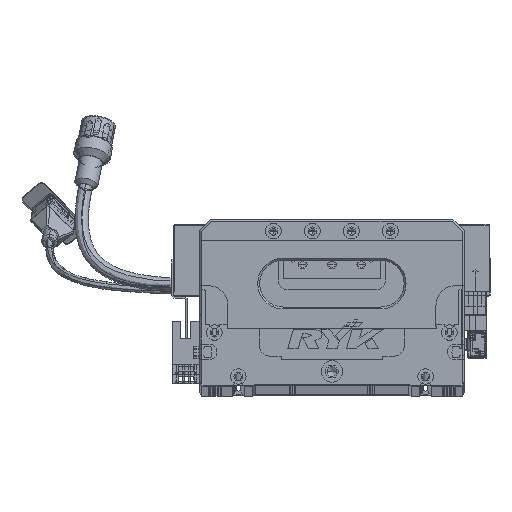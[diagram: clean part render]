
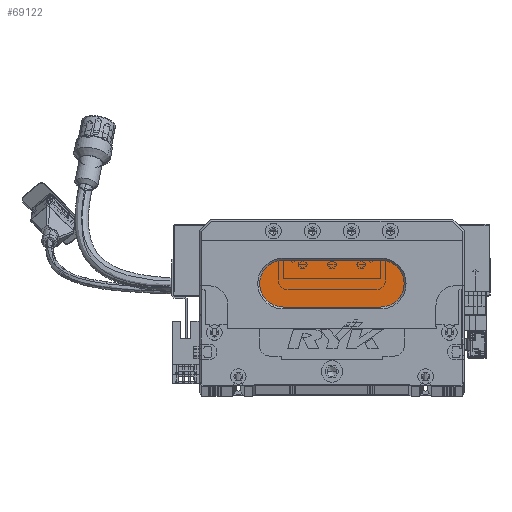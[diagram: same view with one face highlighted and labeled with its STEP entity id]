
A CAD part, top view. The second image highlights one B-rep face of the part: STEP entity #69122.
In plain terms, the highlighted planar face has unit normal (0, 0, 1) as drawn and (0, 0, -1) by its records, which use the part's own axes.
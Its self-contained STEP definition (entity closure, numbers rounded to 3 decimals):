
#598 = DIRECTION ( 'NONE',  ( -1., 0., 0. ) ) ;
#5026 = ORIENTED_EDGE ( 'NONE', *, *, #86917, .T. ) ;
#8267 = AXIS2_PLACEMENT_3D ( 'NONE', #134689, #102789, #19996 ) ;
#9985 = LINE ( 'NONE', #123837, #51354 ) ;
#11673 = ORIENTED_EDGE ( 'NONE', *, *, #78743, .T. ) ;
#11859 = DIRECTION ( 'NONE',  ( 1., 0., 0. ) ) ;
#16763 = ORIENTED_EDGE ( 'NONE', *, *, #78556, .T. ) ;
#18918 = DIRECTION ( 'NONE',  ( -1., 0., 0. ) ) ;
#19996 = DIRECTION ( 'NONE',  ( -1., 0., 0. ) ) ;
#20161 = DIRECTION ( 'NONE',  ( -1., 0., 0. ) ) ;
#24221 = CARTESIAN_POINT ( 'NONE',  ( 31., 52., 13. ) ) ;
#26393 = CARTESIAN_POINT ( 'NONE',  ( 93., 40., 13. ) ) ;
#28907 = ORIENTED_EDGE ( 'NONE', *, *, #34458, .T. ) ;
#32646 = CIRCLE ( 'NONE', #8267, 12. ) ;
#34458 = EDGE_CURVE ( 'NONE', #109410, #131251, #32646, .T. ) ;
#40557 = AXIS2_PLACEMENT_3D ( 'NONE', #133607, #82244, #18918 ) ;
#41898 = DIRECTION ( 'NONE',  ( 0., 0., -1. ) ) ;
#42452 = ORIENTED_EDGE ( 'NONE', *, *, #90683, .T. ) ;
#42687 = CARTESIAN_POINT ( 'NONE',  ( 93., 52., 13. ) ) ;
#42995 = CIRCLE ( 'NONE', #53528, 12. ) ;
#46078 = CARTESIAN_POINT ( 'NONE',  ( 93., 64., 13. ) ) ;
#51354 = VECTOR ( 'NONE', #122444, 1000. ) ;
#52271 = VERTEX_POINT ( 'NONE', #86199 ) ;
#53528 = AXIS2_PLACEMENT_3D ( 'NONE', #95468, #41898, #20161 ) ;
#69122 = ADVANCED_FACE ( 'NONE', ( #91751 ), #95354, .T. ) ;
#69467 = CARTESIAN_POINT ( 'NONE',  ( 43., 64., 13. ) ) ;
#73675 = DIRECTION ( 'NONE',  ( 0., 0., -1. ) ) ;
#78556 = EDGE_CURVE ( 'NONE', #137081, #99687, #42995, .T. ) ;
#78743 = EDGE_CURVE ( 'NONE', #99687, #109410, #99232, .T. ) ;
#82244 = DIRECTION ( 'NONE',  ( 0., 0., -1. ) ) ;
#86199 = CARTESIAN_POINT ( 'NONE',  ( 43., 40., 13. ) ) ;
#86917 = EDGE_CURVE ( 'NONE', #52271, #137081, #87005, .T. ) ;
#87005 = CIRCLE ( 'NONE', #40557, 12. ) ;
#90683 = EDGE_CURVE ( 'NONE', #131251, #52271, #9985, .T. ) ;
#91751 = FACE_OUTER_BOUND ( 'NONE', #117499, .T. ) ;
#94335 = AXIS2_PLACEMENT_3D ( 'NONE', #42687, #73675, #598 ) ;
#95354 = PLANE ( 'NONE',  #94335 ) ;
#95468 = CARTESIAN_POINT ( 'NONE',  ( 43., 52., 13. ) ) ;
#99232 = LINE ( 'NONE', #46078, #117383 ) ;
#99687 = VERTEX_POINT ( 'NONE', #69467 ) ;
#102789 = DIRECTION ( 'NONE',  ( 0., 0., -1. ) ) ;
#109410 = VERTEX_POINT ( 'NONE', #120946 ) ;
#117383 = VECTOR ( 'NONE', #11859, 1000. ) ;
#117499 = EDGE_LOOP ( 'NONE', ( #28907, #42452, #5026, #16763, #11673 ) ) ;
#120946 = CARTESIAN_POINT ( 'NONE',  ( 93., 64., 13. ) ) ;
#122444 = DIRECTION ( 'NONE',  ( -1., 0., 0. ) ) ;
#123837 = CARTESIAN_POINT ( 'NONE',  ( 93., 40., 13. ) ) ;
#131251 = VERTEX_POINT ( 'NONE', #26393 ) ;
#133607 = CARTESIAN_POINT ( 'NONE',  ( 43., 52., 13. ) ) ;
#134689 = CARTESIAN_POINT ( 'NONE',  ( 93., 52., 13. ) ) ;
#137081 = VERTEX_POINT ( 'NONE', #24221 ) ;
